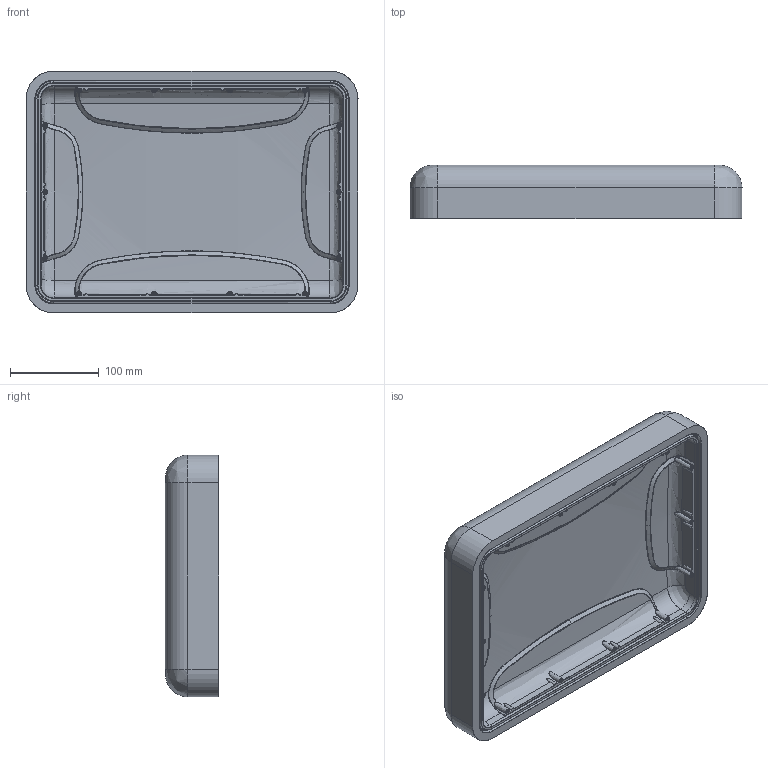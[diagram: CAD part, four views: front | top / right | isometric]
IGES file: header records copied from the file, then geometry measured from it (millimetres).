
Start section: SolidWorks IGES file using analytic representation for surfaces
Global section: file name: M:\NANUK\Solidworks\3D\Cases\910\4 - 3D FILES\4 - INNER SURFACES\NANUK_910_Top_INNER SURFS.SLDPRT.IGS; native system: SolidWorks 2022; preprocessor: SolidWorks 2022; author: jgauthier; date: 250217.110453; units: millimetre
Bounding box: 373.68 x 60 x 272.08 mm (x, y, z)
Surface area: 306325.5 mm2 (no closed solid volume)
Topology: 0 solids, 0 shells, 943 faces, 13317 edges, 13311 vertices
Faces by surface type: bspline 776, revolution 167
